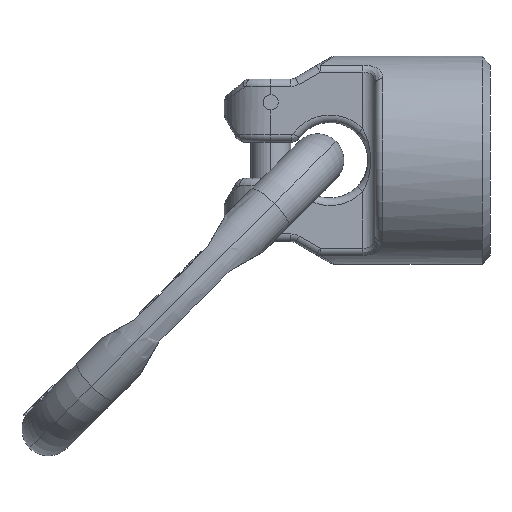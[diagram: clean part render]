
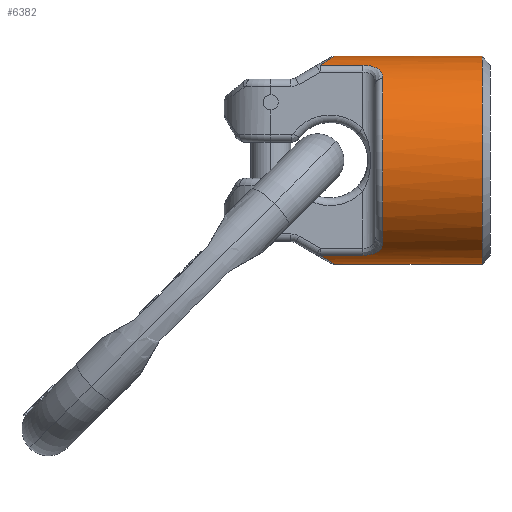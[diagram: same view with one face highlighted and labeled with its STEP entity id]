
A CAD part, front view. The second image highlights one B-rep face of the part: STEP entity #6382.
In plain terms, the highlighted cylindrical face has radius 41.25 mm (diameter 82.5 mm), a partial arc.
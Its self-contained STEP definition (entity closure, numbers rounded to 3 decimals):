
#811=DIRECTION('',(1.,0.,0.));
#812=VECTOR('',#811,58.696);
#813=CARTESIAN_POINT('',(43.804,0.,
-41.25));
#814=LINE('',#813,#812);
#1246=CARTESIAN_POINT('',(102.5,0.,0.));
#1247=DIRECTION('',(1.,0.,0.));
#1248=DIRECTION('',(0.,0.,1.));
#1249=AXIS2_PLACEMENT_3D('',#1246,#1247,#1248);
#1251=CARTESIAN_POINT('',(38.121,-16.716,
-37.711));
#1252=CARTESIAN_POINT('',(38.683,-15.926,
-38.061));
#1253=CARTESIAN_POINT('',(39.72,-14.337,
-38.707));
#1254=CARTESIAN_POINT('',(41.038,-11.885,
-39.528));
#1255=CARTESIAN_POINT('',(42.05,-9.529,
-40.158));
#1256=CARTESIAN_POINT('',(42.818,-7.216,
-40.636));
#1257=CARTESIAN_POINT('',(43.366,-4.928,
-40.977));
#1258=CARTESIAN_POINT('',(43.721,-2.509,
-41.198));
#1259=CARTESIAN_POINT('',(43.804,-0.846,
-41.25));
#1260=CARTESIAN_POINT('',(43.804,0.,
-41.25));
#1262=DIRECTION('',(-1.,0.,0.));
#1263=VECTOR('',#1262,16.879);
#1264=CARTESIAN_POINT('',(55.,-16.716,
-37.711));
#1265=LINE('',#1264,#1263);
#1266=CARTESIAN_POINT('',(63.,-25.343,-32.547));
#1267=CARTESIAN_POINT('',(63.,-25.131,
-32.712));
#1268=CARTESIAN_POINT('',(62.985,-24.704,
-33.038));
#1269=CARTESIAN_POINT('',(62.919,-24.059,
-33.511));
#1270=CARTESIAN_POINT('',(62.805,-23.41,
-33.967));
#1271=CARTESIAN_POINT('',(62.642,-22.761,
-34.405));
#1272=CARTESIAN_POINT('',(62.427,-22.111,
-34.826));
#1273=CARTESIAN_POINT('',(62.156,-21.463,
-35.229));
#1274=CARTESIAN_POINT('',(61.825,-20.821,
-35.612));
#1275=CARTESIAN_POINT('',(61.44,-20.207,
-35.964));
#1276=CARTESIAN_POINT('',(61.014,-19.639,
-36.277));
#1277=CARTESIAN_POINT('',(60.557,-19.124,
-36.551));
#1278=CARTESIAN_POINT('',(60.081,-18.668,
-36.785));
#1279=CARTESIAN_POINT('',(59.576,-18.255,
-36.992));
#1280=CARTESIAN_POINT('',(59.023,-17.875,
-37.177));
#1281=CARTESIAN_POINT('',(58.436,-17.541,
-37.335));
#1282=CARTESIAN_POINT('',(57.82,-17.259,
-37.466));
#1283=CARTESIAN_POINT('',(57.174,-17.029,
-37.571));
#1284=CARTESIAN_POINT('',(56.493,-16.856,
-37.649));
#1285=CARTESIAN_POINT('',(55.773,-16.744,
-37.699));
#1286=CARTESIAN_POINT('',(55.263,-16.716,
-37.711));
#1287=CARTESIAN_POINT('',(55.,-16.716,
-37.711));
#1289=CARTESIAN_POINT('',(63.,0.,0.));
#1290=DIRECTION('',(1.,0.,0.));
#1291=DIRECTION('',(0.,-0.614,0.789));
#1292=AXIS2_PLACEMENT_3D('',#1289,#1290,#1291);
#1294=CARTESIAN_POINT('',(55.,-16.716,37.711));
#1295=CARTESIAN_POINT('',(55.264,-16.716,37.711));
#1296=CARTESIAN_POINT('',(55.776,-16.744,37.699));
#1297=CARTESIAN_POINT('',(56.497,-16.857,37.649));
#1298=CARTESIAN_POINT('',(57.179,-17.031,37.57));
#1299=CARTESIAN_POINT('',(57.827,-17.261,37.465));
#1300=CARTESIAN_POINT('',(58.444,-17.545,37.333));
#1301=CARTESIAN_POINT('',(59.035,-17.882,37.173));
#1302=CARTESIAN_POINT('',(59.587,-18.264,36.987));
#1303=CARTESIAN_POINT('',(60.089,-18.675,36.782));
#1304=CARTESIAN_POINT('',(60.558,-19.125,36.55));
#1305=CARTESIAN_POINT('',(61.009,-19.633,36.28));
#1306=CARTESIAN_POINT('',(61.432,-20.195,35.971));
#1307=CARTESIAN_POINT('',(61.818,-20.809,35.619));
#1308=CARTESIAN_POINT('',(62.152,-21.454,35.234));
#1309=CARTESIAN_POINT('',(62.424,-22.104,34.83));
#1310=CARTESIAN_POINT('',(62.64,-22.756,34.409));
#1311=CARTESIAN_POINT('',(62.804,-23.406,33.969));
#1312=CARTESIAN_POINT('',(62.918,-24.055,33.513));
#1313=CARTESIAN_POINT('',(62.985,-24.701,33.04));
#1314=CARTESIAN_POINT('',(63.,-25.13,32.713));
#1315=CARTESIAN_POINT('',(63.,-25.343,32.547));
#1317=DIRECTION('',(1.,0.,0.));
#1318=VECTOR('',#1317,16.879);
#1319=CARTESIAN_POINT('',(38.121,-16.716,37.711));
#1320=LINE('',#1319,#1318);
#1321=CARTESIAN_POINT('',(43.804,0.,
41.25));
#1322=CARTESIAN_POINT('',(43.804,-0.774,
41.25));
#1323=CARTESIAN_POINT('',(43.733,-2.322,41.206));
#1324=CARTESIAN_POINT('',(43.426,-4.595,41.015));
#1325=CARTESIAN_POINT('',(42.9,-6.931,40.687));
#1326=CARTESIAN_POINT('',(42.123,-9.35,40.203));
#1327=CARTESIAN_POINT('',(41.036,-11.904,39.526));
#1328=CARTESIAN_POINT('',(39.632,-14.485,38.653));
#1329=CARTESIAN_POINT('',(38.637,-15.991,38.033));
#1330=CARTESIAN_POINT('',(38.121,-16.716,37.711));
#1332=DIRECTION('',(1.,0.,0.));
#1333=VECTOR('',#1332,58.696);
#1334=CARTESIAN_POINT('',(43.804,0.,
41.25));
#1335=LINE('',#1334,#1333);
#4289=CARTESIAN_POINT('',(43.804,0.,41.25));
#4291=VERTEX_POINT('',#4289);
#4293=CARTESIAN_POINT('',(43.804,0.,
-41.25));
#4295=VERTEX_POINT('',#4293);
#4299=VERTEX_POINT('',#1294);
#4300=VERTEX_POINT('',#1315);
#4301=CARTESIAN_POINT('',(38.121,-16.716,37.711));
#4302=VERTEX_POINT('',#4301);
#4325=VERTEX_POINT('',#1266);
#4326=VERTEX_POINT('',#1287);
#4331=CARTESIAN_POINT('',(38.121,-16.716,
-37.711));
#4332=VERTEX_POINT('',#4331);
#5073=CARTESIAN_POINT('',(102.5,0.,-41.25));
#5074=CARTESIAN_POINT('',(102.5,0.,41.25));
#5075=VERTEX_POINT('',#5073);
#5076=VERTEX_POINT('',#5074);
#6358=CARTESIAN_POINT('',(0.,0.,0.));
#6359=DIRECTION('',(1.,0.,0.));
#6360=DIRECTION('',(0.,0.,-1.));
#6361=AXIS2_PLACEMENT_3D('',#6358,#6359,#6360);
#6362=CYLINDRICAL_SURFACE('',#6361,41.25);
#6363=ORIENTED_EDGE('',*,*,#5097,.T.);
#6364=ORIENTED_EDGE('',*,*,#5139,.F.);
#6366=ORIENTED_EDGE('',*,*,#6365,.F.);
#6368=ORIENTED_EDGE('',*,*,#6367,.F.);
#6370=ORIENTED_EDGE('',*,*,#6369,.F.);
#6372=ORIENTED_EDGE('',*,*,#6371,.F.);
#6374=ORIENTED_EDGE('',*,*,#6373,.F.);
#6376=ORIENTED_EDGE('',*,*,#6375,.F.);
#6378=ORIENTED_EDGE('',*,*,#6377,.F.);
#6379=ORIENTED_EDGE('',*,*,#5123,.T.);
#6380=EDGE_LOOP('',(#6363,#6364,#6366,#6368,#6370,#6372,#6374,#6376,#6378,
#6379));
#6381=FACE_OUTER_BOUND('',#6380,.F.);
#6382=ADVANCED_FACE('',(#6381),#6362,.T.);
#1250=CIRCLE('',#1249,41.25);
#1261=B_SPLINE_CURVE_WITH_KNOTS('',3,(#1251,#1252,#1253,#1254,#1255,#1256,#1257,
#1258,#1259,#1260),.UNSPECIFIED.,.F.,.F.,(4,1,1,1,1,1,1,4),(0.,
0.143,0.286,0.429,0.571,
0.714,0.857,1.),.UNSPECIFIED.);
#1288=B_SPLINE_CURVE_WITH_KNOTS('',3,(#1266,#1267,#1268,#1269,#1270,#1271,#1272,
#1273,#1274,#1275,#1276,#1277,#1278,#1279,#1280,#1281,#1282,#1283,#1284,#1285,
#1286,#1287),.UNSPECIFIED.,.F.,.F.,(4,1,1,1,1,1,1,1,1,1,1,1,1,1,1,1,1,1,1,4),(
0.,0.053,0.105,0.158,0.211,
0.263,0.316,0.368,0.421,
0.474,0.526,0.579,0.632,
0.684,0.737,0.789,0.842,
0.895,0.947,1.),.UNSPECIFIED.);
#1293=CIRCLE('',#1292,41.25);
#1316=B_SPLINE_CURVE_WITH_KNOTS('',3,(#1294,#1295,#1296,#1297,#1298,#1299,#1300,
#1301,#1302,#1303,#1304,#1305,#1306,#1307,#1308,#1309,#1310,#1311,#1312,#1313,
#1314,#1315),.UNSPECIFIED.,.F.,.F.,(4,1,1,1,1,1,1,1,1,1,1,1,1,1,1,1,1,1,1,4),(
0.,0.053,0.105,0.158,0.211,
0.263,0.316,0.368,0.421,
0.474,0.526,0.579,0.632,
0.684,0.737,0.789,0.842,
0.895,0.947,1.),.UNSPECIFIED.);
#1331=B_SPLINE_CURVE_WITH_KNOTS('',3,(#1321,#1322,#1323,#1324,#1325,#1326,#1327,
#1328,#1329,#1330),.UNSPECIFIED.,.F.,.F.,(4,1,1,1,1,1,1,4),(0.,
0.143,0.286,0.429,0.571,
0.714,0.857,1.),.UNSPECIFIED.);
#5097=EDGE_CURVE('',#5076,#5075,#1250,.T.);
#5123=EDGE_CURVE('',#4291,#5076,#1335,.T.);
#5139=EDGE_CURVE('',#4295,#5075,#814,.T.);
#6365=EDGE_CURVE('',#4332,#4295,#1261,.T.);
#6367=EDGE_CURVE('',#4326,#4332,#1265,.T.);
#6369=EDGE_CURVE('',#4325,#4326,#1288,.T.);
#6371=EDGE_CURVE('',#4300,#4325,#1293,.T.);
#6373=EDGE_CURVE('',#4299,#4300,#1316,.T.);
#6375=EDGE_CURVE('',#4302,#4299,#1320,.T.);
#6377=EDGE_CURVE('',#4291,#4302,#1331,.T.);
